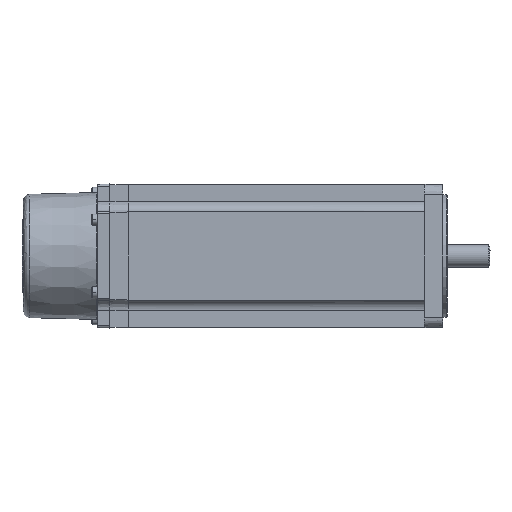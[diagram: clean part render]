
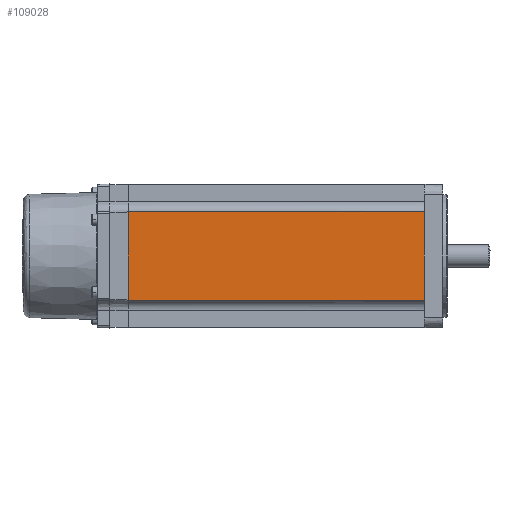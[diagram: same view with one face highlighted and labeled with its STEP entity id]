
A CAD part, front view. The second image highlights one B-rep face of the part: STEP entity #109028.
In plain terms, the highlighted planar face has unit normal (0, -1, 0) as drawn and (0, 1, 0) by its records, which use the part's own axes.
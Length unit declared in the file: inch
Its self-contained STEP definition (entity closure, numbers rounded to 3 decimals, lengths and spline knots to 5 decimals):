
#9267 = CARTESIAN_POINT ( 'NONE',  ( -0.84711, 1.37795, -1.25984 ) ) ;
#9382 = PLANE ( 'NONE',  #147536 ) ;
#16021 = CARTESIAN_POINT ( 'NONE',  ( 0.84711, 1.37795, -1.25984 ) ) ;
#22180 = DIRECTION ( 'NONE',  ( 0., 1., 0. ) ) ;
#24101 = EDGE_LOOP ( 'NONE', ( #140513, #24362, #121036, #145654 ) ) ;
#24362 = ORIENTED_EDGE ( 'NONE', *, *, #45078, .F. ) ;
#28099 = FACE_OUTER_BOUND ( 'NONE', #24101, .T. ) ;
#28206 = VECTOR ( 'NONE', #96566, 39.37008 ) ;
#39281 = DIRECTION ( 'NONE',  ( 0., 0., -1. ) ) ;
#45078 = EDGE_CURVE ( 'NONE', #113640, #74055, #49536, .T. ) ;
#45445 = EDGE_CURVE ( 'NONE', #74055, #153295, #99635, .T. ) ;
#46466 = DIRECTION ( 'NONE',  ( 1., 0., 0. ) ) ;
#49536 = LINE ( 'NONE', #58843, #113717 ) ;
#58843 = CARTESIAN_POINT ( 'NONE',  ( -1.37795, 1.37795, -1.25984 ) ) ;
#69553 = VECTOR ( 'NONE', #92908, 39.37008 ) ;
#72781 = CARTESIAN_POINT ( 'NONE',  ( -1.37795, 1.37795, 4.43307 ) ) ;
#73859 = VECTOR ( 'NONE', #39281, 39.37008 ) ;
#74055 = VERTEX_POINT ( 'NONE', #95259 ) ;
#77477 = CARTESIAN_POINT ( 'NONE',  ( -0.84711, 1.37795, 4.6063 ) ) ;
#79762 = CARTESIAN_POINT ( 'NONE',  ( -0.84711, 1.37795, 4.43307 ) ) ;
#83658 = CARTESIAN_POINT ( 'NONE',  ( -1.37795, 1.37795, 4.43307 ) ) ;
#88855 = CARTESIAN_POINT ( 'NONE',  ( 0.84711, 1.37795, 4.43307 ) ) ;
#92908 = DIRECTION ( 'NONE',  ( 0., 0., 1. ) ) ;
#95259 = CARTESIAN_POINT ( 'NONE',  ( 0.84711, 1.37795, -1.25984 ) ) ;
#96566 = DIRECTION ( 'NONE',  ( 1., 0., 0. ) ) ;
#99356 = VERTEX_POINT ( 'NONE', #79762 ) ;
#99635 = LINE ( 'NONE', #16021, #69553 ) ;
#107848 = LINE ( 'NONE', #77477, #73859 ) ;
#109028 = ADVANCED_FACE ( 'NONE', ( #28099 ), #9382, .T. ) ;
#111917 = DIRECTION ( 'NONE',  ( 0., 0., 1. ) ) ;
#113640 = VERTEX_POINT ( 'NONE', #9267 ) ;
#113717 = VECTOR ( 'NONE', #46466, 39.37008 ) ;
#121036 = ORIENTED_EDGE ( 'NONE', *, *, #158563, .F. ) ;
#126483 = LINE ( 'NONE', #83658, #28206 ) ;
#140513 = ORIENTED_EDGE ( 'NONE', *, *, #45445, .F. ) ;
#145654 = ORIENTED_EDGE ( 'NONE', *, *, #150778, .T. ) ;
#147536 = AXIS2_PLACEMENT_3D ( 'NONE', #72781, #22180, #111917 ) ;
#150778 = EDGE_CURVE ( 'NONE', #99356, #153295, #126483, .T. ) ;
#153295 = VERTEX_POINT ( 'NONE', #88855 ) ;
#158563 = EDGE_CURVE ( 'NONE', #99356, #113640, #107848, .T. ) ;
